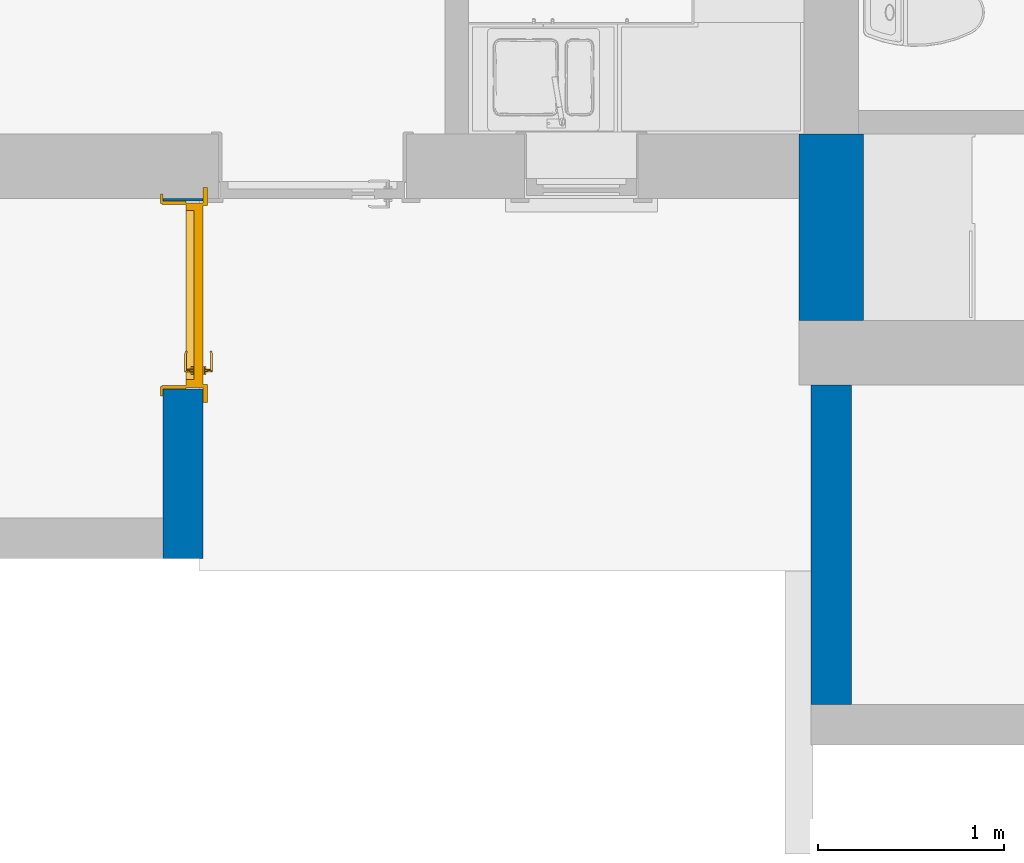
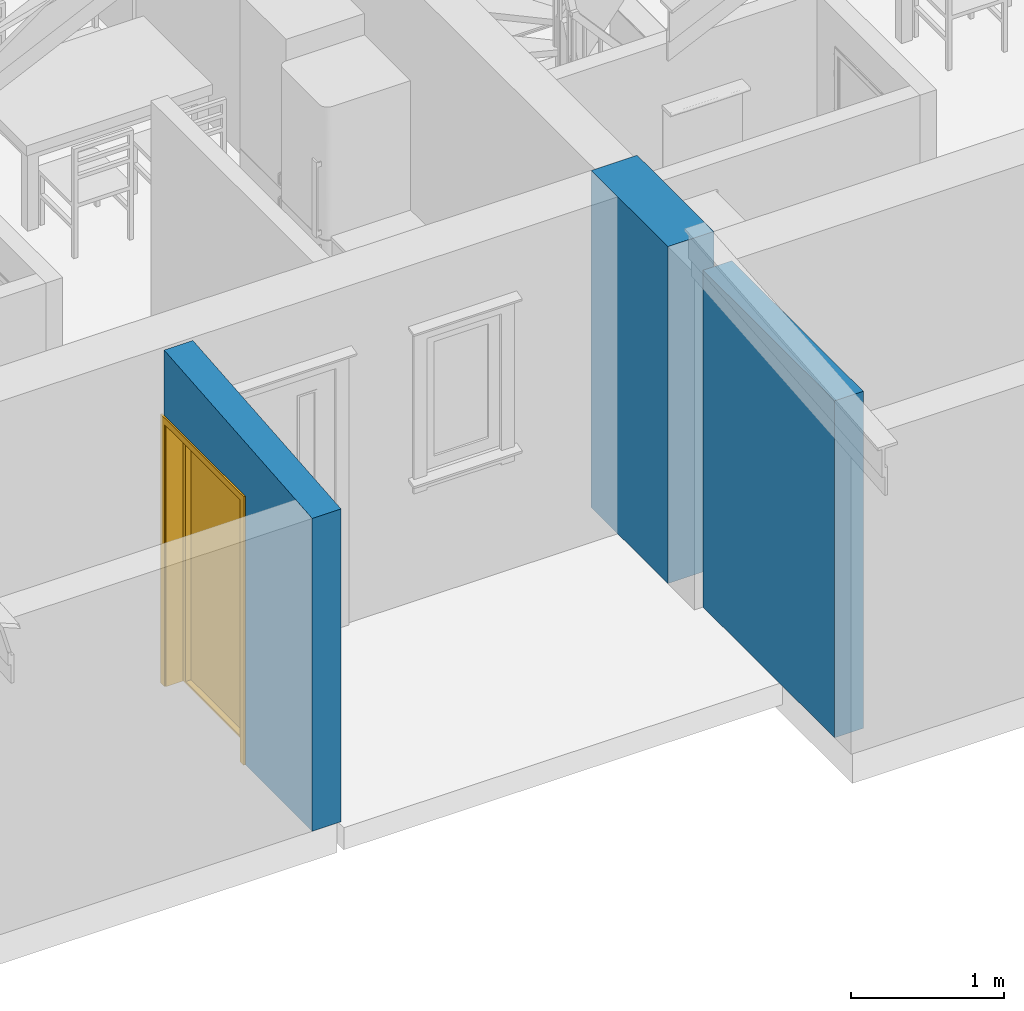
# One storey, part 9 of 65: 3 walls, 1 door, 1 opening.
"""IFC2X3 building model written with IfcOpenShell, lengths in millimetres."""

from ifc_helpers import new_model, entity, si_unit, converted_unit, direction, frame, frame_2d, origin, place, context, subcontext, project, spatial, polyline, rectangle, extrude, clip, bounded_halfspace, faceted_brep, source, transform, mapped, material, material_list, layer, layer_set, layer_usage, type_object, type_shapes, element, fill, save


model = new_model("IFC2X3")

# Units and contexts
model_context = context("Model", 3, precision=0.01, world=origin(), true_north=direction((0.0, 1.0)))
body_context = subcontext(model_context, "Body", "Model", "MODEL_VIEW")
ifc_project = project(units=[si_unit("LENGTHUNIT", "METRE", prefix="MILLI"), si_unit("AREAUNIT", "SQUARE_METRE"), si_unit("VOLUMEUNIT", "CUBIC_METRE"), converted_unit("PLANEANGLEUNIT", "DEGREE", entity("IfcPlaneAngleMeasure", 0.017453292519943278), si_unit("PLANEANGLEUNIT", "RADIAN"), dimensions=[0, 0, 0, 0, 0, 0, 0])], contexts=[model_context])

# Site, building, storey
site_placement = place(None, origin())
site = spatial("IfcSite", under=ifc_project, at=site_placement, Name="Default", CompositionType="ELEMENT")
building_placement = place(site_placement, origin())
building = spatial("IfcBuilding", under=site, at=building_placement, CompositionType="ELEMENT")
storey_placement = place(building_placement, origin())
storey = spatial("IfcBuildingStorey", under=building, at=storey_placement, Name="Et. 1", CompositionType="ELEMENT", Elevation=0.0)

# Wall
ifc_material_1 = material(Name="Vegg - Stående Kledning_smal - HVIT")
ifc_layer_1 = layer(ifc_material_1, 19.0)
ifc_material_2 = material(Name="Vegg - Utlekting")
ifc_layer_2 = layer(ifc_material_2, 36.0)
ifc_layer_3 = layer(ifc_material_2, 23.0)
ifc_material_3 = material(Name="Vegg - Gips - GU")
ifc_layer_4 = layer(ifc_material_3, 9.0)
ifc_material_4 = material(Name="Vegg - Stender - Isolert")
ifc_layer_5 = layer(ifc_material_4, 198.0)
ifc_material_5 = material(Name="Vegg - Påforing - Isolert")
ifc_layer_6 = layer(ifc_material_5, 48.0)
ifc_material_6 = material(Name="Vegg - Gips - Hvit")
ifc_layer_7 = layer(ifc_material_6, 13.000000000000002)
ifc_layer_set_1 = layer_set([ifc_layer_1, ifc_layer_2, ifc_layer_3, ifc_layer_4, ifc_layer_5, ifc_layer_6, ifc_layer_7], Name="Basic Wall:23-Kv(sm)TIG-19_36_23_9_198_48_13")
ifc_layer_usage_1 = layer_usage(ifc_layer_set_1, "AXIS2", "NEGATIVE", 173.0)
wall_type_1 = type_object("IfcWallType", Name="Basic Wall:23-Kv(sm)TIG-19_36_23_9_198_48_13", PredefinedType="STANDARD", material=ifc_layer_set_1)
wall_1_placement = place(storey_placement, frame((22178.00958675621, 9754.180957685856, 0.0), z_axis=(0.0, 0.0, 1.0), x_axis=(0.0, 1.0, 0.0)))
element("IfcWallStandardCase", 1, at=wall_1_placement, inside=storey, type_object=wall_type_1, material=ifc_layer_usage_1, Name="Basic Wall:23-Kv(sm)TIG-19_36_23_9_198_48_13", context=body_context, shape_type="SweptSolid", body=[
    extrude(rectangle(XDim=1000.0000000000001, YDim=345.9999999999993, at=frame_2d((500.00000000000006, 0.0), x_axis=(-1.0, 0.0))), origin(), (0.0, 0.0, 1.0), 2681.0),
])

# Wall, opening, door
ifc_layer_8 = layer(ifc_material_1, 19.0)
ifc_layer_9 = layer(ifc_material_4, 198.0)
ifc_layer_set_2 = layer_set([ifc_layer_8, ifc_layer_9], Name="Basic Wall:23-Kv(sm)TIG-19_Bod")
ifc_layer_usage_2 = layer_usage(ifc_layer_set_2, "AXIS2", "NEGATIVE", 108.5)
wall_type_2 = type_object("IfcWallType", Name="Basic Wall:23-Kv(sm)TIG-19_Bod", PredefinedType="STANDARD", material=ifc_layer_set_2)
wall_2_placement = place(storey_placement, frame((18699.009586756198, 10408.180957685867, 0.0), z_axis=(0.0, 0.0, 1.0), x_axis=(0.0, -1.0, 0.0)))
wall_2 = element("IfcWallStandardCase", 2, at=wall_2_placement, inside=storey, type_object=wall_type_2, material=ifc_layer_usage_2, Name="Basic Wall:23-Kv(sm)TIG-19_Bod", context=body_context, shape_type="Clipping", body=[
    clip(extrude(rectangle(XDim=1932.0000000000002, YDim=217.00000000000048, at=frame_2d((966.0000000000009, -1.0729195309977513e-12), x_axis=(1.0, 0.0))), origin(), (0.0, 0.0, 1.0), 2657.6396116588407), bounded_halfspace(frame((0.0, -108.50000000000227, 2657.6396116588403), z_axis=(0.08715574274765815, 0.0, 0.9961946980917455), x_axis=(0.0, 1.0, 0.0)), False, frame((0.0, -108.50000000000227, 2657.6396116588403)), polyline([(0.0, 0.0), (1715.0, 0.0), (1932.0, 0.0), (1932.0, 217.0), (0.0, 217.0), (0.0, 0.0)]))),
])
opening_placement = place(wall_2_placement, frame((13.0, -108.49999999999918, 0.0)))
opening = element("IfcOpeningElement", 3, at=opening_placement, cuts=wall_2, Name="YD Hel omramming:10x21M:1", ObjectType="Opening", context=body_context, shape_type="SweptSolid", body=[
    extrude(rectangle(XDim=1010.00000000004, YDim=2100.0000000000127, at=frame_2d((1050.0000000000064, 505.00000000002), x_axis=(0.0, -1.0))), frame((0.0, 0.0, 0.0), z_axis=(0.0, 1.0, 0.0), x_axis=(0.0, 0.0, 1.0)), (0.0, 0.0, 1.0), 217.0),
])
ifc_material_7 = material(Name="Karm")
ifc_material_8 = material(Name="Dør - Håndtak")
ifc_material_9 = material(Name="Dør - Dørblad")
ifc_material_10 = material(Name="Dør - Terskel - Eik")
ifc_material_list = material_list([ifc_material_7, ifc_material_8, ifc_material_9, ifc_material_10])
door_style = type_object("IfcDoorStyle", Name="YD Hel omramming:10x21M", ConstructionType="NOTDEFINED", OperationType="SINGLE_SWING_LEFT", ParameterTakesPrecedence=False, Sizeable=False, material=ifc_material_list)
shared_shape = source(origin(), body_context, "Body", "Brep", [
    faceted_brep([(1113.0, 284.5268751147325, 2160.8011105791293), (1113.0, 289.44443697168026, 2179.153701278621), (1113.0, 217.0, 2198.56512966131), (1113.0, 217.0, 2178.894882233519), (-103.0, 284.5268751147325, 2160.8011105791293), (-103.0, 217.0, 2178.894882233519), (-103.0, 217.0, 2198.56512966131), (-103.0, 289.44443697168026, 2179.153701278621)], [[[0, 1, 2, 3]], [[4, 5, 6, 7]], [[1, 0, 4, 7]], [[2, 1, 7, 6]], [[3, 2, 6, 5]], [[0, 3, 5, 4]]]),
    faceted_brep([(25.0, 239.0, 2173.0), (985.0, 239.0, 2173.0), (985.0, 239.0, 2075.0), (25.0, 239.0, 2075.0), (25.0, 217.0, 2173.0), (25.0, 217.0, 2075.0), (985.0, 217.0, 2075.0), (985.0, 217.0, 2173.0)], [[[0, 1, 2, 3]], [[4, 5, 6, 7]], [[1, 0, 4, 7]], [[2, 1, 7, 6]], [[3, 2, 6, 5]], [[0, 3, 5, 4]]]),
    faceted_brep([(-73.0, 239.0, 2179.153701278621), (25.0, 239.0, 2179.153701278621), (25.0, 239.0, 0.0), (-73.0, 239.0, 0.0), (-73.0, 217.0, 2179.153701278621), (25.0, 217.0, 2179.153701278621), (25.0, 217.0, 0.0), (-73.0, 217.0, 0.0)], [[[0, 1, 2, 3]], [[1, 0, 4, 5]], [[2, 1, 5, 6]], [[3, 2, 6, 7]], [[0, 3, 7, 4]], [[4, 7, 6, 5]]]),
    faceted_brep([(985.0, 217.0, 2179.153701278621), (985.0, 217.0, 0.0), (1083.0, 217.0, 0.0), (1083.0, 217.0, 2179.153701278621), (1083.0, 239.0, 2179.153701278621), (985.0, 239.0, 2179.153701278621), (1083.0, 239.0, 0.0), (985.0, 239.0, 0.0)], [[[0, 1, 2, 3]], [[4, 5, 0, 3]], [[6, 4, 3, 2]], [[7, 6, 2, 1]], [[5, 7, 1, 0]], [[5, 4, 6, 7]]]),
    faceted_brep([(910.0, 117.0, 1061.0), (822.4876577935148, 117.0, 1061.0), (804.4308821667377, 121.8382984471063, 1061.0), (807.019072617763, 131.49755670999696, 1061.0), (823.8041827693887, 127.0, 1061.0), (910.0, 127.0, 1061.0), (907.6706285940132, 127.0, 1061.306667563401), (823.8041827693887, 127.0, 1079.0), (910.0, 127.0, 1079.0), (907.6706285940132, 127.0, 1078.6933324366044), (905.499999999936, 127.0, 1077.7942286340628), (903.636038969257, 127.0, 1076.3639610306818), (902.205771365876, 127.0, 1074.500000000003), (901.3066675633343, 127.0, 1072.3293714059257), (901.0, 127.0, 1070.0), (901.3066675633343, 127.0, 1067.6706285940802), (902.205771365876, 127.0, 1065.5000000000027), (903.636038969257, 127.0, 1063.6360389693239), (905.499999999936, 127.0, 1062.2057713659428), (910.0, 117.0, 1079.0), (807.019072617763, 131.49755670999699, 1079.0), (804.4308821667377, 121.83829844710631, 1079.0), (822.4876577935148, 117.0, 1079.0), (919.0, 117.0, 1070.0), (918.7739335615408, 117.0, 1072.0045173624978), (918.1082066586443, 117.0, 1073.9060190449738), (917.0361879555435, 117.0, 1075.6117785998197), (915.6117785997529, 117.0, 1077.0361879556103), (913.9060190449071, 117.0, 1078.1082066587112), (912.0038376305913, 117.0, 1078.7740888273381), (912.0038376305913, 117.0, 1061.2259111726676), (913.9060190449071, 117.0, 1061.8917933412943), (915.6117785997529, 117.0, 1062.9638120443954), (917.0361879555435, 117.0, 1064.3882214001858), (918.1082066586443, 117.0, 1066.0939809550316), (918.7739335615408, 117.0, 1067.9954826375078), (918.6933324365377, 161.0, 1072.3293714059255), (919.0, 161.0, 1070.0), (917.7942286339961, 161.0, 1074.5000000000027), (916.3639610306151, 161.0, 1076.3639610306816), (914.4999999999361, 161.0, 1077.7942286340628), (912.3293714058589, 161.0, 1078.6933324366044), (907.6706285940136, 161.0, 1078.6933324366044), (910.0, 161.0, 1079.0), (905.4999999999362, 161.0, 1077.7942286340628), (903.6360389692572, 161.0, 1076.3639610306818), (902.2057713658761, 161.0, 1074.500000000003), (901.3066675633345, 161.0, 1072.3293714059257), (901.0, 161.0, 1070.0), (901.3066675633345, 161.0, 1067.67062859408), (902.2057713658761, 161.0, 1065.5000000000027), (903.6360389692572, 161.0, 1063.6360389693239), (905.4999999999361, 161.0, 1062.2057713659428), (907.6706285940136, 161.0, 1061.306667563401), (910.0, 161.0, 1061.0), (912.3293714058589, 161.0, 1061.306667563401), (914.4999999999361, 161.0, 1062.2057713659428), (916.363961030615, 161.0, 1063.6360389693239), (918.6933324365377, 161.0, 1067.6706285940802), (917.7942286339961, 161.0, 1065.500000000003), (899.0, 161.0, 1089.0525588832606), (894.443650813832, 161.0, 1085.556349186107), (904.3059810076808, 161.0, 1091.2503681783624), (910.0, 161.0, 1092.0), (915.6940189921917, 161.0, 1091.2503681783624), (921.0, 161.0, 1089.0525588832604), (925.5563491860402, 161.0, 1085.556349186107), (929.0525588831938, 161.0, 1081.0), (931.2503681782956, 161.0, 1075.6940189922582), (932.0, 161.0, 1070.0), (931.2503681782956, 161.0, 1064.3059810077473), (929.0525588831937, 161.0, 1059.0), (925.55634918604, 161.0, 1054.4436508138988), (921.0, 161.0, 1050.947441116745), (915.6940189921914, 161.0, 1048.7496318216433), (910.0, 161.0, 1048.0), (904.3059810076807, 161.0, 1048.7496318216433), (899.0, 161.0, 1050.9474411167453), (894.443650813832, 161.0, 1054.4436508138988), (890.9474411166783, 161.0, 1059.0), (888.7496318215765, 161.0, 1064.3059810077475), (888.0, 161.0, 1070.0), (888.7496318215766, 161.0, 1075.6940189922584), (890.9474411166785, 161.0, 1081.0), (904.3059810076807, 167.0, 1048.7496318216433), (899.0, 167.0, 1050.9474411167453), (894.443650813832, 167.0, 1054.4436508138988), (890.9474411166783, 167.0, 1059.0), (888.7496318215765, 167.0, 1064.3059810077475), (888.0, 167.0, 1070.0), (888.7496318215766, 167.0, 1075.6940189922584), (890.9474411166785, 167.0, 1081.0), (894.443650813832, 167.0, 1085.556349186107), (899.0, 167.0, 1089.0525588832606), (904.3059810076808, 167.0, 1091.2503681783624), (910.0, 167.0, 1092.0), (915.6940189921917, 167.0, 1091.2503681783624), (921.0, 167.0, 1089.0525588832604), (925.5563491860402, 167.0, 1085.556349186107), (929.0525588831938, 167.0, 1081.0), (931.2503681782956, 167.0, 1075.6940189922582), (932.0, 167.0, 1070.0), (931.2503681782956, 167.0, 1064.3059810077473), (929.0525588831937, 167.0, 1059.0), (925.55634918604, 167.0, 1054.4436508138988), (921.0, 167.0, 1050.947441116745), (915.6940189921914, 167.0, 1048.7496318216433), (910.0, 167.0, 1048.0)], [[[0, 1, 2, 3, 4, 5]], [[6, 5, 4, 7, 8, 9, 10, 11, 12, 13, 14, 15, 16, 17, 18]], [[19, 8, 7, 20, 21, 22]], [[23, 24, 25, 26, 27, 28, 29, 19, 22, 1, 0, 30, 31, 32, 33, 34, 35]], [[3, 2, 21, 20]], [[7, 4, 3, 20]], [[1, 22, 21, 2]], [[36, 24, 37]], [[36, 8, 25]], [[38, 39, 8]], [[40, 8, 39]], [[40, 41, 8]], [[38, 8, 36]], [[8, 19, 29]], [[36, 25, 24]], [[24, 23, 37]], [[8, 28, 27]], [[27, 26, 8]], [[8, 26, 25]], [[8, 29, 28]], [[42, 9, 8, 43]], [[44, 10, 9, 42]], [[12, 11, 45, 46]], [[46, 47, 13, 12]], [[44, 45, 11, 10]], [[48, 14, 13, 47]], [[43, 8, 41]], [[49, 15, 14, 48]], [[50, 16, 15, 49]], [[18, 17, 51, 52]], [[52, 53, 6, 18]], [[5, 6, 53, 54]], [[50, 51, 17, 16]], [[5, 30, 0]], [[55, 56, 5]], [[56, 57, 5]], [[58, 5, 59]], [[58, 34, 5]], [[5, 57, 59]], [[37, 35, 58]], [[31, 30, 5]], [[32, 31, 5]], [[34, 33, 5]], [[33, 32, 5]], [[58, 35, 34]], [[37, 23, 35]], [[55, 5, 54]], [[44, 42, 60]], [[61, 44, 60]], [[44, 61, 45]], [[42, 62, 60]], [[62, 42, 43]], [[62, 43, 63]], [[41, 63, 43]], [[63, 41, 64]], [[41, 40, 64]], [[65, 64, 40]], [[39, 65, 40]], [[65, 39, 66]], [[38, 66, 39]], [[67, 66, 38]], [[36, 67, 38]], [[68, 67, 36]], [[68, 36, 37]], [[68, 37, 69]], [[69, 37, 58]], [[69, 58, 70]], [[70, 58, 59]], [[70, 59, 71]], [[72, 71, 59]], [[72, 59, 57]], [[57, 73, 72]], [[57, 56, 73]], [[74, 73, 56]], [[55, 74, 56]], [[55, 75, 74]], [[75, 55, 54]], [[54, 76, 75]], [[53, 76, 54]], [[76, 53, 77]], [[52, 77, 53]], [[78, 77, 52]], [[78, 52, 51]], [[78, 51, 79]], [[79, 51, 50]], [[79, 50, 80]], [[49, 80, 50]], [[81, 80, 49]], [[49, 48, 81]], [[48, 82, 81]], [[82, 48, 47]], [[82, 47, 83]], [[47, 46, 83]], [[45, 83, 46]], [[61, 83, 45]], [[84, 85, 86, 87, 88, 89, 90, 91, 92, 93, 94, 95, 96, 97, 98, 99, 100, 101, 102, 103, 104, 105, 106, 107]], [[100, 68, 69, 101]], [[99, 67, 68, 100]], [[65, 66, 98, 97]], [[99, 98, 66, 67]], [[64, 65, 97, 96]], [[63, 64, 96, 95]], [[94, 62, 63, 95]], [[93, 60, 62, 94]], [[83, 61, 92, 91]], [[93, 92, 61, 60]], [[82, 83, 91, 90]], [[81, 82, 90, 89]], [[88, 80, 81, 89]], [[87, 79, 80, 88]], [[77, 78, 86, 85]], [[87, 86, 78, 79]], [[76, 77, 85, 84]], [[75, 76, 84, 107]], [[106, 74, 75, 107]], [[105, 73, 74, 106]], [[71, 72, 104, 103]], [[105, 104, 72, 73]], [[70, 71, 103, 102]], [[69, 70, 102, 101]]]),
    faceted_brep([(899.0, 152.0, 1019.0525588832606), (894.443650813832, 152.0, 1015.556349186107), (890.9474411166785, 152.0, 1011.0), (888.7496318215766, 152.0, 1005.6940189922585), (888.0, 152.0, 1000.0), (888.7496318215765, 152.0, 994.3059810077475), (890.9474411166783, 152.0, 989.0), (894.443650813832, 152.0, 984.4436508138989), (899.0, 152.0, 980.9474411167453), (904.3059810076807, 152.0, 978.7496318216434), (910.0, 152.0, 978.0), (915.6940189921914, 152.0, 978.7496318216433), (921.0, 152.0, 980.9474411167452), (925.55634918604, 152.0, 984.4436508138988), (929.0525588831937, 152.0, 989.0), (931.2503681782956, 152.0, 994.3059810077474), (932.0, 152.0, 1000.0), (931.2503681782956, 152.0, 1005.6940189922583), (929.0525588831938, 152.0, 1011.0), (925.5563491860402, 152.0, 1015.5563491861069), (921.0, 152.0, 1019.0525588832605), (915.6940189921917, 152.0, 1021.2503681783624), (910.0, 152.0, 1022.0), (904.3059810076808, 152.0, 1021.2503681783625), (915.6940189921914, 167.0, 978.7496318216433), (910.0, 167.0, 978.0), (904.3059810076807, 167.0, 978.7496318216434), (899.0, 167.0, 980.9474411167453), (894.443650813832, 167.0, 984.4436508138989), (890.9474411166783, 167.0, 989.0), (888.7496318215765, 167.0, 994.3059810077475), (888.0, 167.0, 1000.0), (888.7496318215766, 167.0, 1005.6940189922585), (890.9474411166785, 167.0, 1011.0), (894.443650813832, 167.0, 1015.556349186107), (899.0, 167.0, 1019.0525588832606), (904.3059810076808, 167.0, 1021.2503681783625), (910.0, 167.0, 1022.0), (915.6940189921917, 167.0, 1021.2503681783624), (921.0, 167.0, 1019.0525588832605), (925.5563491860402, 167.0, 1015.5563491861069), (929.0525588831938, 167.0, 1011.0), (931.2503681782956, 167.0, 1005.6940189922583), (932.0, 167.0, 1000.0), (931.2503681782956, 167.0, 994.3059810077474), (929.0525588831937, 167.0, 989.0), (925.55634918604, 167.0, 984.4436508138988), (921.0, 167.0, 980.9474411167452)], [[[0, 1, 2, 3, 4, 5, 6, 7, 8, 9, 10, 11, 12, 13, 14, 15, 16, 17, 18, 19, 20, 21, 22, 23]], [[24, 25, 26, 27, 28, 29, 30, 31, 32, 33, 34, 35, 36, 37, 38, 39, 40, 41, 42, 43, 44, 45, 46, 47]], [[42, 17, 16, 43]], [[41, 18, 17, 42]], [[20, 19, 40, 39]], [[41, 40, 19, 18]], [[21, 20, 39, 38]], [[22, 21, 38, 37]], [[36, 23, 22, 37]], [[35, 0, 23, 36]], [[2, 1, 34, 33]], [[35, 34, 1, 0]], [[3, 2, 33, 32]], [[4, 3, 32, 31]], [[30, 5, 4, 31]], [[29, 6, 5, 30]], [[8, 7, 28, 27]], [[29, 28, 7, 6]], [[9, 8, 27, 26]], [[10, 9, 26, 25]], [[24, 11, 10, 25]], [[47, 12, 11, 24]], [[14, 13, 46, 45]], [[46, 13, 12, 47]], [[15, 44, 43, 16]], [[15, 14, 45, 44]]]),
    faceted_brep([(899.0, 223.0, 1089.0525588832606), (907.6706285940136, 223.0, 1078.6933324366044), (905.4999999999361, 223.0, 1077.7942286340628), (894.443650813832, 223.0, 1085.556349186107), (904.3059810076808, 223.0, 1091.2503681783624), (910.0, 223.0, 1079.0), (910.0, 223.0, 1092.0), (912.3293714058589, 223.0, 1078.6933324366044), (915.6940189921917, 223.0, 1091.2503681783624), (914.4999999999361, 223.0, 1077.7942286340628), (921.0, 223.0, 1089.0525588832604), (916.363961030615, 223.0, 1076.3639610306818), (925.5563491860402, 223.0, 1085.556349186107), (917.7942286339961, 223.0, 1074.5000000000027), (929.0525588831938, 223.0, 1081.0), (918.6933324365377, 223.0, 1072.3293714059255), (931.2503681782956, 223.0, 1075.6940189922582), (919.0, 223.0, 1070.0), (932.0, 223.0, 1070.0), (918.6933324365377, 223.0, 1067.6706285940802), (931.2503681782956, 223.0, 1064.3059810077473), (917.7942286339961, 223.0, 1065.500000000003), (929.0525588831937, 223.0, 1059.0), (925.55634918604, 223.0, 1054.4436508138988), (916.363961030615, 223.0, 1063.6360389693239), (921.0, 223.0, 1050.947441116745), (914.4999999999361, 223.0, 1062.2057713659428), (915.6940189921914, 223.0, 1048.7496318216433), (912.3293714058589, 223.0, 1061.306667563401), (910.0, 223.0, 1048.0), (910.0, 223.0, 1061.0), (904.3059810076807, 223.0, 1048.7496318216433), (907.6706285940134, 223.0, 1061.306667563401), (899.0, 223.0, 1050.9474411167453), (905.4999999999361, 223.0, 1062.2057713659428), (894.443650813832, 223.0, 1054.4436508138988), (903.6360389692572, 223.0, 1063.6360389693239), (890.9474411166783, 223.0, 1059.0), (902.2057713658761, 223.0, 1065.5000000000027), (888.7496318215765, 223.0, 1064.3059810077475), (901.3066675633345, 223.0, 1067.67062859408), (888.0, 223.0, 1070.0), (901.0, 223.0, 1070.0), (888.7496318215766, 223.0, 1075.6940189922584), (901.3066675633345, 223.0, 1072.3293714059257), (890.9474411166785, 223.0, 1081.0), (903.6360389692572, 223.0, 1076.3639610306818), (902.2057713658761, 223.0, 1074.500000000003), (910.0, 217.0, 1048.0), (915.6940189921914, 217.0, 1048.7496318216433), (921.0, 217.0, 1050.947441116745), (925.55634918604, 217.0, 1054.4436508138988), (929.0525588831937, 217.0, 1059.0), (931.2503681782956, 217.0, 1064.3059810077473), (932.0, 217.0, 1070.0), (931.2503681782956, 217.0, 1075.6940189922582), (929.0525588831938, 217.0, 1081.0), (925.5563491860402, 217.0, 1085.556349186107), (921.0, 217.0, 1089.0525588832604), (915.6940189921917, 217.0, 1091.2503681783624), (910.0, 217.0, 1092.0), (904.3059810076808, 217.0, 1091.2503681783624), (899.0, 217.0, 1089.0525588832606), (894.443650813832, 217.0, 1085.556349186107), (890.9474411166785, 217.0, 1081.0), (888.7496318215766, 217.0, 1075.6940189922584), (888.0, 217.0, 1070.0), (888.7496318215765, 217.0, 1064.3059810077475), (890.9474411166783, 217.0, 1059.0), (894.443650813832, 217.0, 1054.4436508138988), (899.0, 217.0, 1050.9474411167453), (904.3059810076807, 217.0, 1048.7496318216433), (918.7739335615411, 267.0, 1072.0045173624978), (918.1082066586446, 267.0, 1073.9060190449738), (910.0, 257.0, 1079.0), (912.0038376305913, 267.0, 1078.7740888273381), (910.0, 267.0, 1079.0), (919.0, 267.0, 1070.0), (915.6117785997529, 267.0, 1077.0361879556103), (913.9060190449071, 267.0, 1078.1082066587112), (917.0361879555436, 267.0, 1075.61177859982), (907.6706285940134, 257.0, 1078.6933324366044), (905.499999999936, 257.0, 1077.7942286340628), (903.6360389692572, 257.0, 1076.3639610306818), (902.2057713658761, 257.0, 1074.500000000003), (901.3066675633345, 257.0, 1072.3293714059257), (901.0, 257.0, 1070.0), (901.3066675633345, 257.0, 1067.6706285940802), (902.205771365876, 257.0, 1065.5000000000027), (903.6360389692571, 257.0, 1063.6360389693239), (905.499999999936, 257.0, 1062.2057713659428), (907.6706285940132, 257.0, 1061.306667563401), (910.0, 257.0, 1061.0), (910.0, 267.0, 1061.0), (912.0038376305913, 267.0, 1061.2259111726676), (918.1082066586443, 267.0, 1066.0939809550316), (918.7739335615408, 267.0, 1067.9954826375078), (913.9060190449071, 267.0, 1061.8917933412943), (915.6117785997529, 267.0, 1062.9638120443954), (917.0361879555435, 267.0, 1064.3882214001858), (823.8041827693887, 257.0, 1061.0), (807.019072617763, 252.50244329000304, 1061.0), (804.4308821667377, 262.1617015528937, 1061.0), (822.4876577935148, 267.0, 1061.0), (823.8041827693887, 257.0, 1079.0), (822.4876577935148, 267.0, 1079.0), (804.4308821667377, 262.1617015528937, 1079.0), (807.019072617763, 252.50244329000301, 1079.0)], [[[0, 1, 2]], [[0, 2, 3]], [[0, 4, 1]], [[5, 1, 4]], [[6, 5, 4]], [[5, 6, 7]], [[8, 7, 6]], [[8, 9, 7]], [[9, 8, 10]], [[9, 10, 11]], [[12, 11, 10]], [[11, 12, 13]], [[13, 12, 14]], [[13, 14, 15]], [[15, 14, 16]], [[17, 15, 16]], [[18, 17, 16]], [[19, 17, 18]], [[20, 19, 18]], [[21, 19, 20]], [[22, 21, 20]], [[21, 22, 23]], [[24, 21, 23]], [[23, 25, 24]], [[25, 26, 24]], [[26, 25, 27]], [[26, 27, 28]], [[27, 29, 28]], [[30, 28, 29]], [[29, 31, 30]], [[30, 31, 32]], [[33, 32, 31]], [[32, 33, 34]], [[34, 33, 35]], [[36, 34, 35]], [[37, 36, 35]], [[38, 36, 37]], [[39, 38, 37]], [[38, 39, 40]], [[40, 39, 41]], [[41, 42, 40]], [[41, 43, 42]], [[44, 42, 43]], [[45, 44, 43]], [[46, 45, 3]], [[45, 47, 44]], [[47, 45, 46]], [[46, 3, 2]], [[48, 49, 50, 51, 52, 53, 54, 55, 56, 57, 58, 59, 60, 61, 62, 63, 64, 65, 66, 67, 68, 69, 70, 71]], [[54, 18, 16, 55]], [[55, 16, 14, 56]], [[58, 57, 12, 10]], [[12, 57, 56, 14]], [[59, 58, 10, 8]], [[59, 8, 6, 60]], [[60, 6, 4, 61]], [[61, 4, 0, 62]], [[64, 63, 3, 45]], [[3, 63, 62, 0]], [[65, 64, 45, 43]], [[65, 43, 41, 66]], [[66, 41, 39, 67]], [[67, 39, 37, 68]], [[70, 69, 35, 33]], [[35, 69, 68, 37]], [[71, 70, 33, 31]], [[71, 31, 29, 48]], [[48, 29, 27, 49]], [[49, 27, 25, 50]], [[52, 51, 23, 22]], [[23, 51, 50, 25]], [[53, 52, 22, 20]], [[53, 20, 18, 54]], [[17, 72, 15]], [[73, 74, 15]], [[74, 11, 13]], [[11, 74, 9]], [[74, 7, 9]], [[15, 74, 13]], [[75, 76, 74]], [[72, 73, 15]], [[17, 77, 72]], [[78, 79, 74]], [[74, 80, 78]], [[73, 80, 74]], [[79, 75, 74]], [[5, 74, 81, 1]], [[1, 81, 82, 2]], [[47, 46, 83, 84]], [[85, 44, 47, 84]], [[83, 46, 2, 82]], [[44, 85, 86, 42]], [[7, 74, 5]], [[42, 86, 87, 40]], [[40, 87, 88, 38]], [[34, 36, 89, 90]], [[91, 32, 34, 90]], [[30, 32, 91, 92]], [[89, 36, 38, 88]], [[93, 94, 92]], [[92, 26, 28]], [[92, 24, 26]], [[21, 92, 19]], [[92, 95, 19]], [[21, 24, 92]], [[19, 96, 17]], [[92, 94, 97]], [[92, 97, 98]], [[92, 99, 95]], [[92, 98, 99]], [[95, 96, 19]], [[96, 77, 17]], [[30, 92, 28]], [[92, 100, 101, 102, 103, 93]], [[100, 92, 91, 90, 89, 88, 87, 86, 85, 84, 83, 82, 81, 74, 104]], [[104, 74, 76, 105, 106, 107]], [[106, 102, 101, 107]], [[101, 100, 104, 107]], [[106, 105, 103, 102]], [[73, 72, 77, 96, 95, 99, 98, 97, 94, 93, 103, 105, 76, 75, 79, 78, 80]]]),
    faceted_brep([(904.3059810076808, 232.0, 1021.2503681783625), (910.0, 232.0, 1022.0), (915.6940189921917, 232.0, 1021.2503681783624), (921.0, 232.0, 1019.0525588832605), (925.5563491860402, 232.0, 1015.5563491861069), (929.0525588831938, 232.0, 1011.0), (931.2503681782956, 232.0, 1005.6940189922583), (932.0, 232.0, 1000.0), (931.2503681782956, 232.0, 994.3059810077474), (929.0525588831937, 232.0, 989.0), (925.55634918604, 232.0, 984.4436508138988), (921.0, 232.0, 980.9474411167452), (915.6940189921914, 232.0, 978.7496318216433), (910.0, 232.0, 978.0), (904.3059810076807, 232.0, 978.7496318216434), (899.0, 232.0, 980.9474411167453), (894.443650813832, 232.0, 984.4436508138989), (890.9474411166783, 232.0, 989.0), (888.7496318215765, 232.0, 994.3059810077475), (888.0, 232.0, 1000.0), (888.7496318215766, 232.0, 1005.6940189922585), (890.9474411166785, 232.0, 1011.0), (894.443650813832, 232.0, 1015.556349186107), (899.0, 232.0, 1019.0525588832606), (904.3059810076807, 217.0, 978.7496318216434), (910.0, 217.0, 978.0), (915.6940189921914, 217.0, 978.7496318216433), (921.0, 217.0, 980.9474411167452), (925.55634918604, 217.0, 984.4436508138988), (929.0525588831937, 217.0, 989.0), (931.2503681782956, 217.0, 994.3059810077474), (932.0, 217.0, 1000.0), (931.2503681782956, 217.0, 1005.6940189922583), (929.0525588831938, 217.0, 1011.0), (925.5563491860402, 217.0, 1015.5563491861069), (921.0, 217.0, 1019.0525588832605), (915.6940189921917, 217.0, 1021.2503681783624), (910.0, 217.0, 1022.0), (904.3059810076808, 217.0, 1021.2503681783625), (899.0, 217.0, 1019.0525588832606), (894.443650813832, 217.0, 1015.556349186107), (890.9474411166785, 217.0, 1011.0), (888.7496318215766, 217.0, 1005.6940189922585), (888.0, 217.0, 1000.0), (888.7496318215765, 217.0, 994.3059810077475), (890.9474411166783, 217.0, 989.0), (894.443650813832, 217.0, 984.4436508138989), (899.0, 217.0, 980.9474411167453)], [[[0, 1, 2, 3, 4, 5, 6, 7, 8, 9, 10, 11, 12, 13, 14, 15, 16, 17, 18, 19, 20, 21, 22, 23]], [[24, 25, 26, 27, 28, 29, 30, 31, 32, 33, 34, 35, 36, 37, 38, 39, 40, 41, 42, 43, 44, 45, 46, 47]], [[31, 7, 6, 32]], [[32, 6, 5, 33]], [[35, 34, 4, 3]], [[4, 34, 33, 5]], [[36, 35, 3, 2]], [[36, 2, 1, 37]], [[37, 1, 0, 38]], [[38, 0, 23, 39]], [[41, 40, 22, 21]], [[22, 40, 39, 23]], [[42, 41, 21, 20]], [[42, 20, 19, 43]], [[43, 19, 18, 44]], [[44, 18, 17, 45]], [[47, 46, 16, 15]], [[16, 46, 45, 17]], [[24, 47, 15, 14]], [[24, 14, 13, 25]], [[25, 13, 12, 26]], [[26, 12, 11, 27]], [[29, 28, 10, 9]], [[27, 11, 10, 28]], [[7, 31, 30, 8]], [[29, 9, 8, 30]]]),
    faceted_brep([(958.0, 217.0, 0.0), (1000.0, 217.0, 0.0), (1000.0, 125.0, 0.0), (958.0, 125.0, 0.0), (958.0, 217.0, 2048.0), (52.0, 217.0, 2048.0), (52.0, 217.0, 0.0), (10.0, 217.0, 0.0), (10.0, 217.0, 2090.0), (1000.0, 217.0, 2090.0), (1000.0, 125.0, 2090.0), (10.0, 125.0, 2090.0), (10.0, 125.0, 0.0), (52.0, 125.0, 0.0), (52.0, 125.0, 2048.0), (958.0, 125.0, 2048.0)], [[[0, 1, 2, 3]], [[1, 0, 4, 5, 6, 7, 8, 9]], [[2, 1, 9, 10]], [[3, 2, 10, 11, 12, 13, 14, 15]], [[0, 3, 15, 4]], [[10, 9, 8, 11]], [[4, 15, 14, 5]], [[6, 13, 12, 7]], [[11, 8, 7, 12]], [[5, 14, 13, 6]]]),
    faceted_brep([(52.0, 167.0, 5.0), (958.0, 167.0, 5.0), (958.0, 167.0, 2048.0), (52.0, 167.0, 2048.0), (52.0, 217.0, 5.0), (52.0, 217.0, 2048.0), (958.0, 217.0, 2048.0), (958.0, 217.0, 5.0)], [[[0, 1, 2, 3]], [[4, 5, 6, 7]], [[1, 0, 4, 7]], [[2, 1, 7, 6]], [[3, 2, 6, 5]], [[0, 3, 5, 4]]]),
    faceted_brep([(958.0, 217.0, 5.0), (958.0, 167.0, 5.0), (958.0, 167.0, 15.0), (958.0, 125.0, 15.0), (958.0, 125.0, 0.0), (958.0, 217.0, 0.0), (52.0, 217.0, 5.0), (52.0, 217.0, 0.0), (52.0, 125.0, 0.0), (52.0, 125.0, 15.0), (52.0, 167.0, 15.0), (52.0, 167.0, 5.0)], [[[0, 1, 2, 3, 4, 5]], [[6, 7, 8, 9, 10, 11]], [[1, 0, 6, 11]], [[2, 1, 11, 10]], [[3, 2, 10, 9]], [[4, 3, 9, 8]], [[5, 4, 8, 7]], [[0, 5, 7, 6]]]),
    faceted_brep([(19.828902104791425, 125.0, 0.0), (19.828902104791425, -5.0, 0.0), (14.828902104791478, -5.0, 0.0), (14.828902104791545, -12.0, 0.0), (-37.17109789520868, -12.0, 0.0), (-37.17109789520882, 0.0, 0.0), (0.0, 0.0, 0.0), (0.0, 125.0, 0.0), (19.828902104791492, 125.0, 2080.171097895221), (19.828902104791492, -5.0, 2080.171097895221), (990.171097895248, -5.0, 2080.171097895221), (990.171097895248, -5.0, 0.0), (995.171097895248, -5.0, 0.0), (995.1710978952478, -5.0, 2085.171097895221), (14.828902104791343, -5.0, 2085.1710978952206), (0.0, 125.0, 2100.0), (0.0, 0.0, 2100.0), (1010.0, 125.0, 2100.0), (1010.0, 125.0, 0.0), (990.171097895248, 125.0, 0.0), (990.171097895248, 125.0, 2080.171097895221), (1010.0, 0.0, 2100.0), (1010.0, 0.0, 0.0), (1047.1710978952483, 0.0, 0.0), (1047.1710978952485, -12.0, 0.0), (995.171097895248, -12.0, 0.0), (-37.171097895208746, 0.0, 2137.1710978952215), (1047.1710978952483, 0.0, 2137.1710978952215), (14.82890210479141, -12.0, 2085.171097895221), (995.171097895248, -12.0, 2085.1710978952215), (1047.171097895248, -12.0, 2137.1710978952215), (-37.17109789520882, -12.0, 2137.1710978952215)], [[[0, 1, 2, 3, 4, 5, 6, 7]], [[1, 0, 8, 9]], [[1, 9, 10, 11, 12, 13, 14, 2]], [[15, 7, 6, 16]], [[0, 7, 15, 17, 18, 19, 20, 8]], [[9, 8, 20, 10]], [[17, 15, 16, 21]], [[19, 18, 22, 23, 24, 25, 12, 11]], [[11, 10, 20, 19]], [[18, 17, 21, 22]], [[5, 26, 27, 23, 22, 21, 16, 6]], [[28, 3, 2, 14]], [[4, 3, 28, 29, 25, 24, 30, 31]], [[5, 4, 31, 26]], [[29, 28, 14, 13]], [[27, 26, 31, 30]], [[25, 29, 13, 12]], [[23, 27, 30, 24]]]),
])
type_shapes(door_style, [shared_shape])
door_placement = place(opening_placement, origin())
door = element("IfcDoor", 4, at=door_placement, inside=storey, type_object=door_style, material=ifc_material_list, Name="YD Hel omramming:10x21M", OverallHeight=2100.0000000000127, OverallWidth=1010.00000000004, context=body_context, shape_type="MappedRepresentation", body=[
    mapped(shared_shape, transform((0.0, 0.0, 0.0), scale=1.0)),
])
fill(opening, door)

# Wall
ifc_layer_usage_3 = layer_usage(ifc_layer_set_2, "AXIS2", "NEGATIVE", 108.5)
wall_3_placement = place(storey_placement, frame((22178.009586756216, 7693.180957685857, 0.0), z_axis=(0.0, 0.0, 1.0), x_axis=(0.0, 1.0, 0.0)))
element("IfcWallStandardCase", 5, at=wall_3_placement, inside=storey, type_object=wall_type_2, material=ifc_layer_usage_3, Name="Basic Wall:23-Kv(sm)TIG-19_Bod", context=body_context, shape_type="SweptSolid", body=[
    extrude(rectangle(XDim=1715.0, YDim=217.00000000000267, at=frame_2d((857.5, -3.268496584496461e-13), x_axis=(-1.0, 0.0))), origin(), (0.0, 0.0, 1.0), 2681.0),
])

save(model, "model.ifc")
